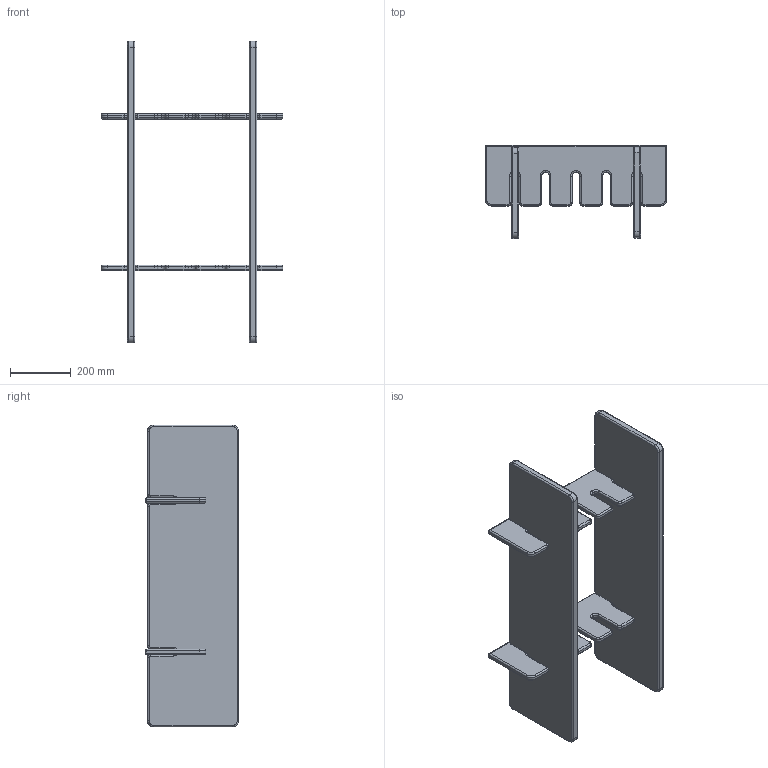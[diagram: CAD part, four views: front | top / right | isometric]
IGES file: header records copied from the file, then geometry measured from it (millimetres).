
Start section: 3D InterOp IGES (Version 23 0 1), Spatial Corp. Copyright (c) 1999-2007.
Global section: file name: Etag_re DAVID 600.igs; native system: Spatial Corp.; preprocessor: 3D InterOp GENERIC/IGES 3.0; author: Noname; organization: Noname; date: 20130608.084748; units: millimetre
Bounding box: 600 x 308 x 996 mm (x, y, z)
Surface area: 1803354.6 mm2 (no closed solid volume)
Topology: 0 solids, 0 shells, 428 faces, 2044 edges, 2036 vertices
Faces by surface type: revolution 358, extrusion 70
